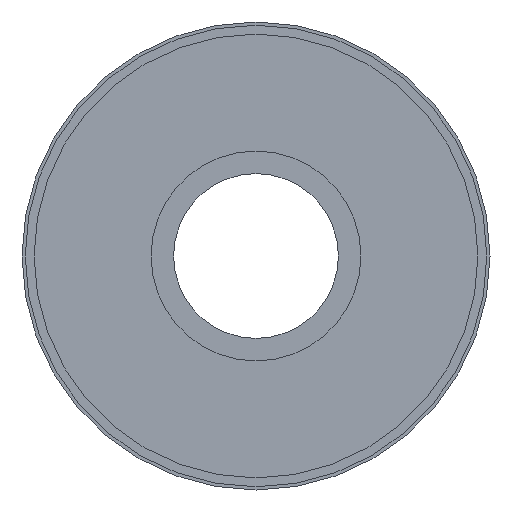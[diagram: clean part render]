
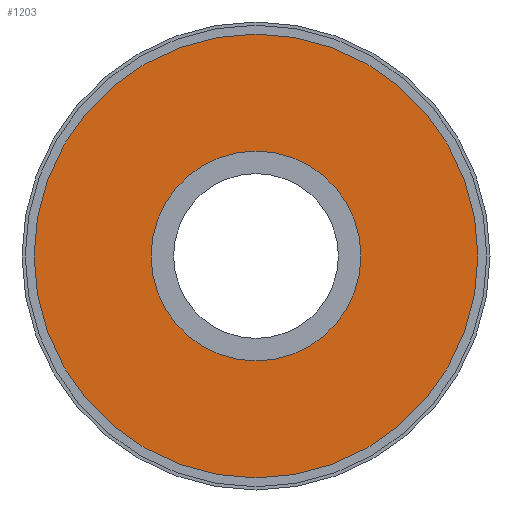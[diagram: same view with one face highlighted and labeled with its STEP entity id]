
A CAD part, front view. The second image highlights one B-rep face of the part: STEP entity #1203.
In plain terms, the highlighted planar face has unit normal (0, -1, 0).
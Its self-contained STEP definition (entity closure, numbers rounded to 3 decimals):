
#1 = EDGE_LOOP ( 'NONE', ( #611, #1365 ) ) ;
#42 = CIRCLE ( 'NONE', #1191, 137.5 ) ;
#45 = AXIS2_PLACEMENT_3D ( 'NONE', #537, #659, #425 ) ;
#75 = EDGE_CURVE ( 'NONE', #1435, #605, #1243, .T. ) ;
#117 = AXIS2_PLACEMENT_3D ( 'NONE', #752, #1186, #1174 ) ;
#276 = ORIENTED_EDGE ( 'NONE', *, *, #1040, .T. ) ;
#279 = DIRECTION ( 'NONE',  ( 0., -1., 0. ) ) ;
#425 = DIRECTION ( 'NONE',  ( 0., 0., -1. ) ) ;
#452 = VERTEX_POINT ( 'NONE', #1121 ) ;
#467 = AXIS2_PLACEMENT_3D ( 'NONE', #1146, #279, #1255 ) ;
#511 = CARTESIAN_POINT ( 'NONE',  ( 0., 38., -137.5 ) ) ;
#524 = EDGE_CURVE ( 'NONE', #605, #1435, #1221, .T. ) ;
#537 = CARTESIAN_POINT ( 'NONE',  ( 0., 38., 0. ) ) ;
#573 = ORIENTED_EDGE ( 'NONE', *, *, #1392, .T. ) ;
#582 = VERTEX_POINT ( 'NONE', #511 ) ;
#605 = VERTEX_POINT ( 'NONE', #1157 ) ;
#611 = ORIENTED_EDGE ( 'NONE', *, *, #524, .F. ) ;
#659 = DIRECTION ( 'NONE',  ( 0., -1., 0. ) ) ;
#688 = EDGE_LOOP ( 'NONE', ( #276, #573 ) ) ;
#732 = AXIS2_PLACEMENT_3D ( 'NONE', #929, #1160, #826 ) ;
#752 = CARTESIAN_POINT ( 'NONE',  ( 0., 38., -137.5 ) ) ;
#810 = CARTESIAN_POINT ( 'NONE',  ( 0., 38., 0. ) ) ;
#826 = DIRECTION ( 'NONE',  ( 0., 0., -1. ) ) ;
#910 = DIRECTION ( 'NONE',  ( 0., 0., -1. ) ) ;
#929 = CARTESIAN_POINT ( 'NONE',  ( 0., 38., 0. ) ) ;
#973 = PLANE ( 'NONE',  #117 ) ;
#1040 = EDGE_CURVE ( 'NONE', #582, #452, #1355, .T. ) ;
#1080 = FACE_OUTER_BOUND ( 'NONE', #688, .T. ) ;
#1121 = CARTESIAN_POINT ( 'NONE',  ( 0., 38., 137.5 ) ) ;
#1146 = CARTESIAN_POINT ( 'NONE',  ( 0., 38., 0. ) ) ;
#1157 = CARTESIAN_POINT ( 'NONE',  ( 0., 38., -54.05 ) ) ;
#1160 = DIRECTION ( 'NONE',  ( 0., -1., 0. ) ) ;
#1174 = DIRECTION ( 'NONE',  ( 0., 0., -1. ) ) ;
#1186 = DIRECTION ( 'NONE',  ( 0., -1., 0. ) ) ;
#1191 = AXIS2_PLACEMENT_3D ( 'NONE', #810, #1352, #910 ) ;
#1203 = ADVANCED_FACE ( 'NONE', ( #1080, #1295 ), #973, .T. ) ;
#1221 = CIRCLE ( 'NONE', #467, 54.05 ) ;
#1243 = CIRCLE ( 'NONE', #45, 54.05 ) ;
#1255 = DIRECTION ( 'NONE',  ( 0., 0., -1. ) ) ;
#1267 = CARTESIAN_POINT ( 'NONE',  ( 0., 38., 54.05 ) ) ;
#1295 = FACE_BOUND ( 'NONE', #1, .T. ) ;
#1352 = DIRECTION ( 'NONE',  ( 0., -1., 0. ) ) ;
#1355 = CIRCLE ( 'NONE', #732, 137.5 ) ;
#1365 = ORIENTED_EDGE ( 'NONE', *, *, #75, .F. ) ;
#1392 = EDGE_CURVE ( 'NONE', #452, #582, #42, .T. ) ;
#1435 = VERTEX_POINT ( 'NONE', #1267 ) ;
